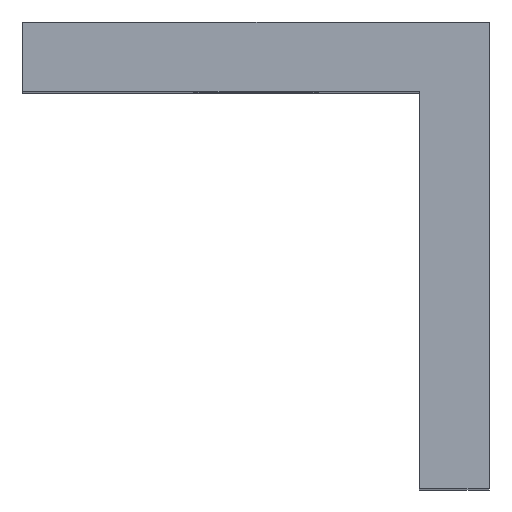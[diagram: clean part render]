
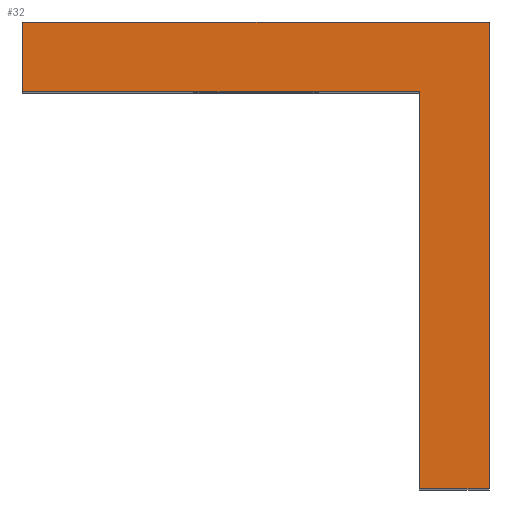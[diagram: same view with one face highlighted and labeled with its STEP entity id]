
A CAD part, top view. The second image highlights one B-rep face of the part: STEP entity #32.
In plain terms, the highlighted planar face has unit normal (0, 0, 1) as drawn and (0, 0, -1) by its records, which use the part's own axes.
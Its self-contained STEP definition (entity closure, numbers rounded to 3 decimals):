
#32=ADVANCED_FACE('',(#48),#586,.T.);
#48=FACE_OUTER_BOUND('',#64,.T.);
#64=EDGE_LOOP('',(#88,#89,#90,#91,#92,#93));
#88=ORIENTED_EDGE('',*,*,#398,.T.);
#89=ORIENTED_EDGE('',*,*,#399,.T.);
#90=ORIENTED_EDGE('',*,*,#400,.T.);
#91=ORIENTED_EDGE('',*,*,#401,.T.);
#92=ORIENTED_EDGE('',*,*,#402,.T.);
#93=ORIENTED_EDGE('',*,*,#403,.T.);
#188=PCURVE('',#586,#272);
#189=PCURVE('',#586,#273);
#190=PCURVE('',#586,#274);
#191=PCURVE('',#586,#275);
#192=PCURVE('',#586,#276);
#193=PCURVE('',#586,#277);
#197=PCURVE('',#587,#281);
#211=PCURVE('',#589,#295);
#219=PCURVE('',#590,#303);
#223=PCURVE('',#591,#307);
#231=PCURVE('',#592,#315);
#236=PCURVE('',#593,#320);
#272=DEFINITIONAL_REPRESENTATION('',(#441),#4073);
#273=DEFINITIONAL_REPRESENTATION('',(#443),#4073);
#274=DEFINITIONAL_REPRESENTATION('',(#445),#4073);
#275=DEFINITIONAL_REPRESENTATION('',(#447),#4073);
#276=DEFINITIONAL_REPRESENTATION('',(#449),#4073);
#277=DEFINITIONAL_REPRESENTATION('',(#451),#4073);
#281=DEFINITIONAL_REPRESENTATION('',(#458),#4073);
#295=DEFINITIONAL_REPRESENTATION('',(#478),#4073);
#303=DEFINITIONAL_REPRESENTATION('',(#487),#4073);
#307=DEFINITIONAL_REPRESENTATION('',(#492),#4073);
#315=DEFINITIONAL_REPRESENTATION('',(#501),#4073);
#320=DEFINITIONAL_REPRESENTATION('',(#506),#4073);
#356=SURFACE_CURVE('',#440,(#188,#236),.PCURVE_S1.);
#357=SURFACE_CURVE('',#442,(#189,#231),.PCURVE_S1.);
#358=SURFACE_CURVE('',#444,(#190,#223),.PCURVE_S1.);
#359=SURFACE_CURVE('',#446,(#191,#219),.PCURVE_S1.);
#360=SURFACE_CURVE('',#448,(#192,#211),.PCURVE_S1.);
#361=SURFACE_CURVE('',#450,(#193,#197),.PCURVE_S1.);
#398=EDGE_CURVE('',#550,#556,#356,.T.);
#399=EDGE_CURVE('',#556,#555,#357,.T.);
#400=EDGE_CURVE('',#555,#554,#358,.T.);
#401=EDGE_CURVE('',#554,#553,#359,.T.);
#402=EDGE_CURVE('',#553,#552,#360,.T.);
#403=EDGE_CURVE('',#552,#550,#361,.T.);
#440=B_SPLINE_CURVE_WITH_KNOTS('',1,(#813,#814),.UNSPECIFIED.,.F.,.F.,(2,
2),(0.,3.),.UNSPECIFIED.);
#441=B_SPLINE_CURVE_WITH_KNOTS('',1,(#815,#816),.UNSPECIFIED.,.F.,.F.,(2,
2),(0.,3.),.UNSPECIFIED.);
#442=B_SPLINE_CURVE_WITH_KNOTS('',1,(#817,#818),.UNSPECIFIED.,.F.,.F.,(2,
2),(3.,20.),.UNSPECIFIED.);
#443=B_SPLINE_CURVE_WITH_KNOTS('',1,(#819,#820),.UNSPECIFIED.,.F.,.F.,(2,
2),(3.,20.),.UNSPECIFIED.);
#444=B_SPLINE_CURVE_WITH_KNOTS('',1,(#821,#822),.UNSPECIFIED.,.F.,.F.,(2,
2),(20.,37.),.UNSPECIFIED.);
#445=B_SPLINE_CURVE_WITH_KNOTS('',1,(#823,#824),.UNSPECIFIED.,.F.,.F.,(2,
2),(20.,37.),.UNSPECIFIED.);
#446=B_SPLINE_CURVE_WITH_KNOTS('',1,(#825,#826),.UNSPECIFIED.,.F.,.F.,(2,
2),(37.,40.),.UNSPECIFIED.);
#447=B_SPLINE_CURVE_WITH_KNOTS('',1,(#827,#828),.UNSPECIFIED.,.F.,.F.,(2,
2),(37.,40.),.UNSPECIFIED.);
#448=B_SPLINE_CURVE_WITH_KNOTS('',1,(#829,#830),.UNSPECIFIED.,.F.,.F.,(2,
2),(40.,60.),.UNSPECIFIED.);
#449=B_SPLINE_CURVE_WITH_KNOTS('',1,(#831,#832),.UNSPECIFIED.,.F.,.F.,(2,
2),(40.,60.),.UNSPECIFIED.);
#450=B_SPLINE_CURVE_WITH_KNOTS('',1,(#833,#834),.UNSPECIFIED.,.F.,.F.,(2,
2),(60.,80.),.UNSPECIFIED.);
#451=B_SPLINE_CURVE_WITH_KNOTS('',1,(#835,#836),.UNSPECIFIED.,.F.,.F.,(2,
2),(60.,80.),.UNSPECIFIED.);
#458=B_SPLINE_CURVE_WITH_KNOTS('',1,(#849,#850),.UNSPECIFIED.,.F.,.F.,(2,
2),(60.,80.),.UNSPECIFIED.);
#478=B_SPLINE_CURVE_WITH_KNOTS('',1,(#1649,#1650),.UNSPECIFIED.,.F.,.F.,
(2,2),(40.,60.),.UNSPECIFIED.);
#487=B_SPLINE_CURVE_WITH_KNOTS('',1,(#2427,#2428),.UNSPECIFIED.,.F.,.F.,
(2,2),(37.,40.),.UNSPECIFIED.);
#492=B_SPLINE_CURVE_WITH_KNOTS('',1,(#2437,#2438),.UNSPECIFIED.,.F.,.F.,
(2,2),(20.,37.),.UNSPECIFIED.);
#501=B_SPLINE_CURVE_WITH_KNOTS('',1,(#3215,#3216),.UNSPECIFIED.,.F.,.F.,
(2,2),(3.,20.),.UNSPECIFIED.);
#506=B_SPLINE_CURVE_WITH_KNOTS('',1,(#3985,#3986),.UNSPECIFIED.,.F.,.F.,
(2,2),(0.,3.),.UNSPECIFIED.);
#550=VERTEX_POINT('',#785);
#552=VERTEX_POINT('',#787);
#553=VERTEX_POINT('',#788);
#554=VERTEX_POINT('',#789);
#555=VERTEX_POINT('',#790);
#556=VERTEX_POINT('',#791);
#586=PLANE('',#614);
#587=PLANE('',#615);
#589=PLANE('',#617);
#590=PLANE('',#618);
#591=PLANE('',#619);
#592=PLANE('',#620);
#593=PLANE('',#621);
#614=AXIS2_PLACEMENT_3D('',#633,#624,$);
#615=AXIS2_PLACEMENT_3D('',#634,#625,$);
#617=AXIS2_PLACEMENT_3D('',#636,#627,$);
#618=AXIS2_PLACEMENT_3D('',#637,#628,$);
#619=AXIS2_PLACEMENT_3D('',#638,#629,$);
#620=AXIS2_PLACEMENT_3D('',#639,#630,$);
#621=AXIS2_PLACEMENT_3D('',#640,#631,$);
#624=DIRECTION('',(0.,0.,-1.));
#625=DIRECTION('',(-1.,0.,0.));
#627=DIRECTION('',(0.,-1.,0.));
#628=DIRECTION('',(1.,0.,0.));
#629=DIRECTION('',(0.,1.,0.));
#630=DIRECTION('',(1.,0.,0.));
#631=DIRECTION('',(0.,1.,0.));
#633=CARTESIAN_POINT('',(696.,295.,17.));
#634=CARTESIAN_POINT('',(696.,295.,17.));
#636=CARTESIAN_POINT('',(696.,315.,17.));
#637=CARTESIAN_POINT('',(676.,315.,17.));
#638=CARTESIAN_POINT('',(676.,312.,17.));
#639=CARTESIAN_POINT('',(693.,312.,17.));
#640=CARTESIAN_POINT('',(693.,295.,17.));
#785=CARTESIAN_POINT('',(696.,295.,17.));
#787=CARTESIAN_POINT('',(696.,315.,17.));
#788=CARTESIAN_POINT('',(676.,315.,17.));
#789=CARTESIAN_POINT('',(676.,312.,17.));
#790=CARTESIAN_POINT('',(693.,312.,17.));
#791=CARTESIAN_POINT('',(693.,295.,17.));
#813=CARTESIAN_POINT('',(696.,295.,17.));
#814=CARTESIAN_POINT('',(693.,295.,17.));
#815=CARTESIAN_POINT('',(0.,0.));
#816=CARTESIAN_POINT('',(3.,0.));
#817=CARTESIAN_POINT('',(693.,295.,17.));
#818=CARTESIAN_POINT('',(693.,312.,17.));
#819=CARTESIAN_POINT('',(3.,0.));
#820=CARTESIAN_POINT('',(3.,17.));
#821=CARTESIAN_POINT('',(693.,312.,17.));
#822=CARTESIAN_POINT('',(676.,312.,17.));
#823=CARTESIAN_POINT('',(3.,17.));
#824=CARTESIAN_POINT('',(20.,17.));
#825=CARTESIAN_POINT('',(676.,312.,17.));
#826=CARTESIAN_POINT('',(676.,315.,17.));
#827=CARTESIAN_POINT('',(20.,17.));
#828=CARTESIAN_POINT('',(20.,20.));
#829=CARTESIAN_POINT('',(676.,315.,17.));
#830=CARTESIAN_POINT('',(696.,315.,17.));
#831=CARTESIAN_POINT('',(20.,20.));
#832=CARTESIAN_POINT('',(0.,20.));
#833=CARTESIAN_POINT('',(696.,315.,17.));
#834=CARTESIAN_POINT('',(696.,295.,17.));
#835=CARTESIAN_POINT('',(0.,20.));
#836=CARTESIAN_POINT('',(0.,0.));
#849=CARTESIAN_POINT('',(-60.,0.));
#850=CARTESIAN_POINT('',(-80.,0.));
#1649=CARTESIAN_POINT('',(-40.,0.));
#1650=CARTESIAN_POINT('',(-60.,0.));
#2427=CARTESIAN_POINT('',(-37.,0.));
#2428=CARTESIAN_POINT('',(-40.,0.));
#2437=CARTESIAN_POINT('',(-20.,0.));
#2438=CARTESIAN_POINT('',(-37.,0.));
#3215=CARTESIAN_POINT('',(-3.,0.));
#3216=CARTESIAN_POINT('',(-20.,0.));
#3985=CARTESIAN_POINT('',(0.,0.));
#3986=CARTESIAN_POINT('',(-3.,0.));
#4073=(
GEOMETRIC_REPRESENTATION_CONTEXT(2)
PARAMETRIC_REPRESENTATION_CONTEXT()
REPRESENTATION_CONTEXT('pspace','')
);
